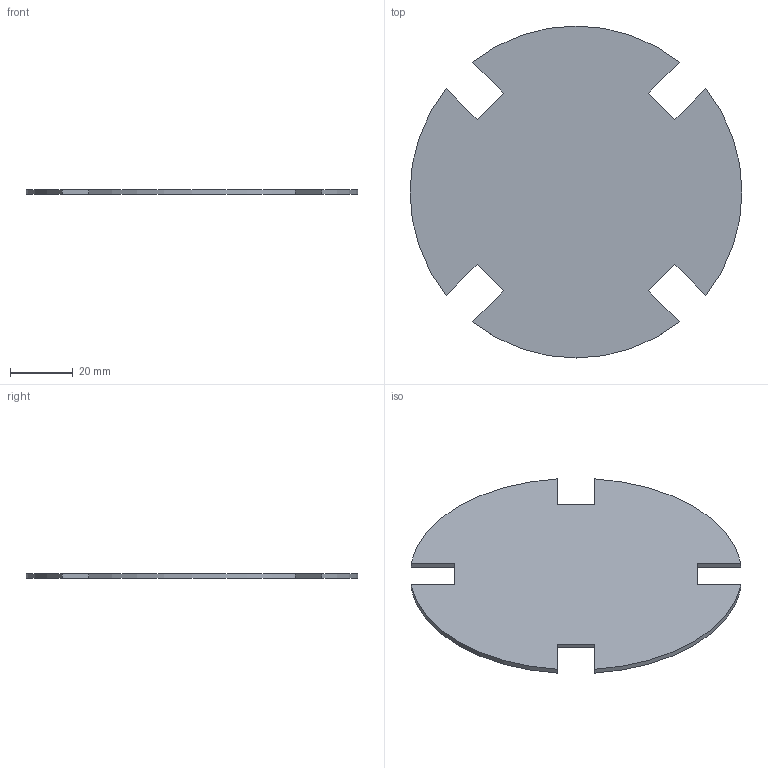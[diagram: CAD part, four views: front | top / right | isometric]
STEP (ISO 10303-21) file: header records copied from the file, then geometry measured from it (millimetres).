
FILE_DESCRIPTION(('Open CASCADE Model'),'2;1');
FILE_NAME('Open CASCADE Shape Model','2026-10-20T19:06:11',('Author'),( 'Open CASCADE'),'Open CASCADE STEP processor 7.9','Open CASCADE 7.9' ,'Unknown');
FILE_SCHEMA(('AUTOMOTIVE_DESIGN { 1 0 10303 214 1 1 1 1 }'));
Length unit declared in the file: millimetre
Products named in the file (1): Open CASCADE STEP translator 7.9 8
Bounding box: 106 x 106 x 1.5 mm (x, y, z)
Volume: 12213.4 mm3; surface area: 16951.8 mm2
Topology: 1 solids, 1 shells, 18 faces, 48 edges, 32 vertices
Faces by surface type: plane 14, cylinder 4
Entity records: 1182 total; most frequent: CARTESIAN_POINT 243, DIRECTION 162, LINE 104, VECTOR 104, ORIENTED_EDGE 96, PCURVE 96, DEFINITIONAL_REPRESENTATION 96, EDGE_CURVE 48
